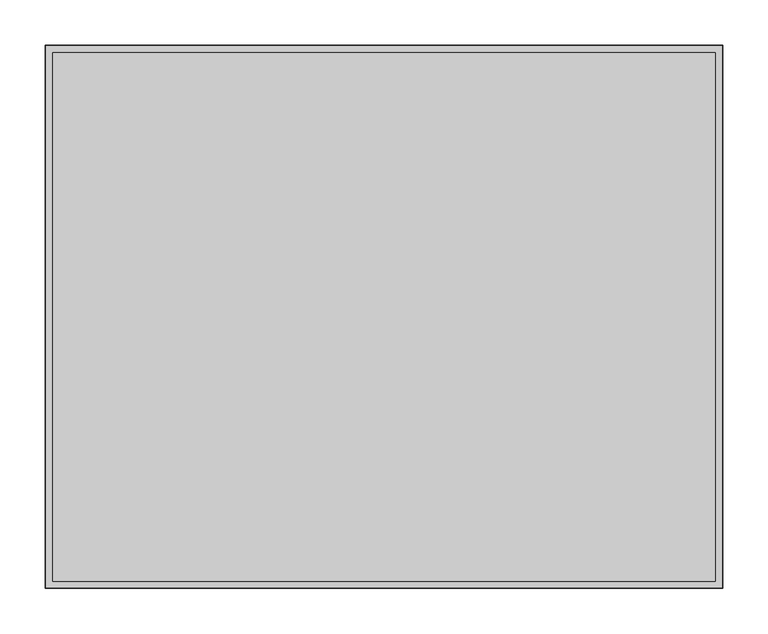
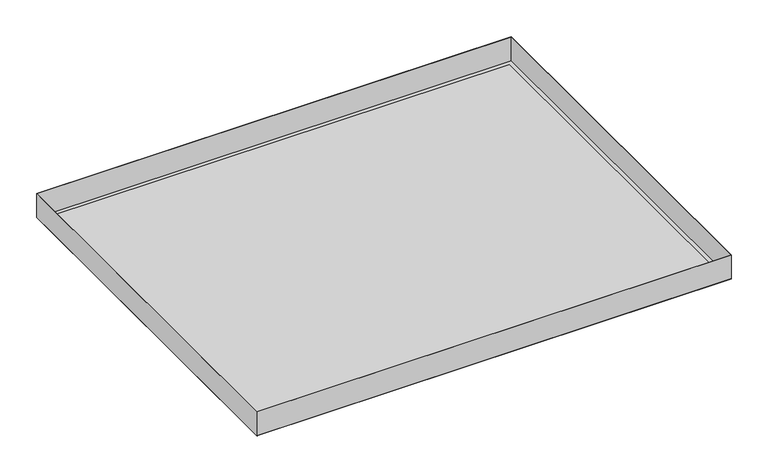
"""IFC4 building model written with IfcOpenShell, lengths in millimetres: proxy geometry, durlum_S5-100_panel : durlum_S5-100_panel_wall_length_cut."""

from ifc_helpers import new_model, si_unit, frame, origin, origin_with_axes, place, context, project, spatial, polyline, outline, extrude, source, transform, mapped, element, save


def generic_models_d52b243d(model_context):
    return source(origin(), model_context, "Body", "SweptSolid", [
        extrude(outline(polyline([(373.5, 299.75), (373.5, -299.75), (-373.5, -299.75), (-373.5, 299.75), (373.5, 299.75)]), holes=[polyline([(372.9, 299.15), (-372.9, 299.15), (-372.9, -299.15), (372.9, -299.15), (372.9, 299.15)])]), frame((0.0, 0.0, 0.6), z_axis=(0.0, 0.0, 1.0), x_axis=(1.0, 0.0, 0.0)), (0.0, 0.0, 1.0), 39.4),
        extrude(outline(polyline([(365.5, 291.75), (365.5, -291.75), (-365.5, -291.75), (-365.5, 291.75), (365.5, 291.75)])), frame((0.0, 0.0, 0.6), z_axis=(0.0, 0.0, 1.0), x_axis=(1.0, 0.0, 0.0)), (0.0, 0.0, 1.0), 0.6),
        extrude(outline(polyline([(373.5, 299.75), (373.5, -299.75), (-373.5, -299.75), (-373.5, 299.75), (373.5, 299.75)]), holes=[polyline([(365.5, 291.75), (-365.5, 291.75), (-365.5, -291.75), (365.5, -291.75), (365.5, 291.75)])]), origin_with_axes(), (0.0, 0.0, 1.0), 0.6),
        extrude(outline(polyline([(365.5, 291.75), (365.5, -291.75), (-365.5, -291.75), (-365.5, 291.75), (365.5, 291.75)])), origin_with_axes(), (0.0, 0.0, 1.0), 0.6),
    ])


if __name__ == "__main__":
    model = new_model("IFC4")
    model_context = context("Model", 3, world=origin())
    ifc_project = project(units=[si_unit("LENGTHUNIT", "METRE", prefix="MILLI")], contexts=[model_context])
    site = spatial("IfcSite", under=ifc_project)
    building = spatial("IfcBuilding", under=site)
    placement = place(None, origin())
    generic_models_shape = generic_models_d52b243d(model_context)
    element("IfcBuildingElementProxy", 1, Name="durlum_S5-100_panel : durlum_S5-100_panel_wall_length_cut", ObjectType="durlum_S5-100_panel : durlum_S5-100_panel_wall_length_cut", at=placement, inside=building, context=model_context, shape_type="MappedRepresentation", body=[
        mapped(generic_models_shape, transform((0.0, 0.0, 0.0), x_axis=(1.0, 0.0, 0.0), y_axis=(0.0, 1.0, 0.0), z_axis=(0.0, 0.0, 1.0))),
    ])
    save(model, "model.ifc")
